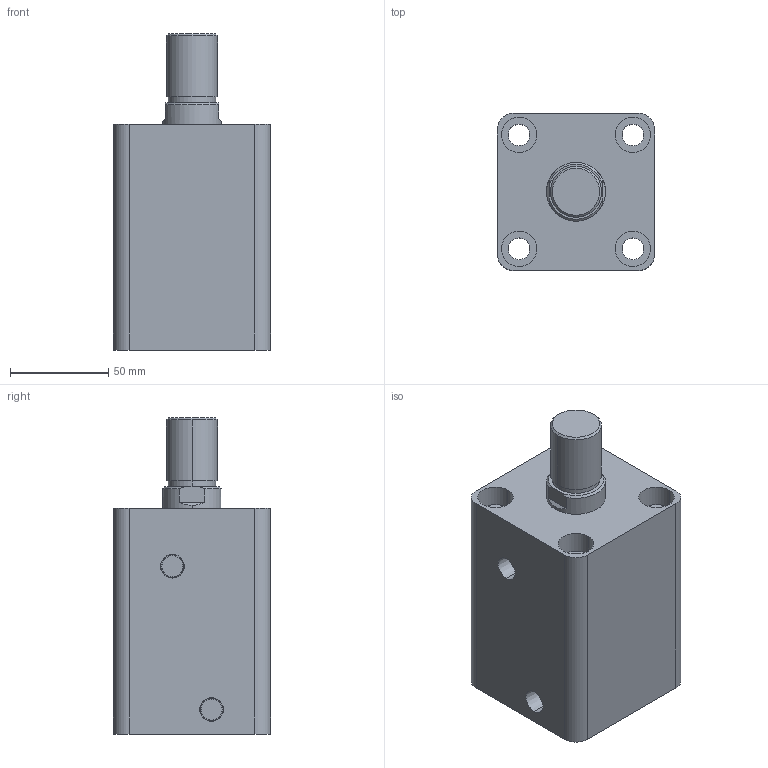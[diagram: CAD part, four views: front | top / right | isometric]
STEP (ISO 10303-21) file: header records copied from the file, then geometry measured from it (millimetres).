
FILE_DESCRIPTION (( 'STEP AP203' ), '1' );
FILE_NAME ('HTB-SD50-55W.STEP', '2019-10-07T07:10:21', ( '微软用户' ), ( '微软中国' ), 'SwSTEP 2.0', 'SolidWorks 2012', '' );
FILE_SCHEMA (( 'CONFIG_CONTROL_DESIGN' ));
Length unit declared in the file: millimetre
Products named in the file (3): HTB-SD50-55W; HTB-SD50-55W活塞杆; HTB-SD50-55掛极
Assembly tree (2 placements, depth 2):
  HTB-SD50-55W
    HTB-SD50-55掛极
    HTB-SD50-55W活塞杆
Bounding box: 80 x 80 x 161 mm (x, y, z)
Volume: 626226.1 mm3; surface area: 101783.5 mm2
Topology: 2 solids, 2 shells, 87 faces, 190 edges, 124 vertices
Faces by surface type: cylinder 44, plane 29, cone 8, torus 6
Entity records: 2761 total; most frequent: DIRECTION 478, CARTESIAN_POINT 434, ORIENTED_EDGE 380, AXIS2_PLACEMENT_3D 204, EDGE_CURVE 190, VERTEX_POINT 124, CIRCLE 112, EDGE_LOOP 112
